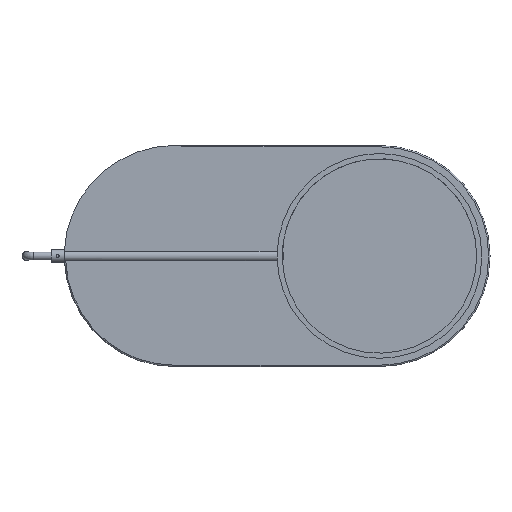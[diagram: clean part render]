
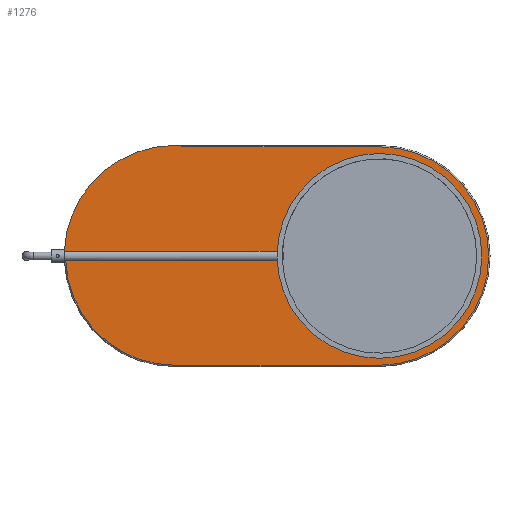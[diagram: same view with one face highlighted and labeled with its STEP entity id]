
A CAD part, top view. The second image highlights one B-rep face of the part: STEP entity #1276.
In plain terms, the highlighted planar face has unit normal (0, 0, 1).
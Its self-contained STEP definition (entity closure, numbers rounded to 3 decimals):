
#401=CARTESIAN_POINT('',(0.0,-168.0,4.0));
#402=VERTEX_POINT('',#401);
#410=CARTESIAN_POINT('',(-314.999,-168.0,4.0));
#411=VERTEX_POINT('',#410);
#412=CARTESIAN_POINT('',(0.0,-168.0,4.0));
#413=DIRECTION('',(-1.0,0.0,0.0));
#414=VECTOR('',#413,314.999);
#415=LINE('',#412,#414);
#416=EDGE_CURVE('',#402,#411,#415,.T.);
#442=CARTESIAN_POINT('',(0.,168.0,4.0));
#443=VERTEX_POINT('',#442);
#451=CARTESIAN_POINT('',(0.0,0.0,4.0));
#452=DIRECTION('',(0.0,0.0,-1.0));
#453=DIRECTION('',(1.0,0.0,0.0));
#454=AXIS2_PLACEMENT_3D('',#451,#452,#453);
#455=CIRCLE('',#454,168.0);
#456=EDGE_CURVE('',#443,#402,#455,.T.);
#468=CARTESIAN_POINT('',(-482.724,-7.215,4.0));
#469=VERTEX_POINT('',#468);
#470=CARTESIAN_POINT('',(-314.872,0.007,4.0));
#471=DIRECTION('',(0.0,0.0,-1.0));
#472=DIRECTION('',(-0.692,-0.722,0.0));
#473=AXIS2_PLACEMENT_3D('',#470,#471,#472);
#474=CIRCLE('',#473,168.007);
#475=EDGE_CURVE('',#411,#469,#474,.T.);
#502=CARTESIAN_POINT('',(-288.78,168.0,4.0));
#503=VERTEX_POINT('',#502);
#533=CARTESIAN_POINT('',(-288.78,168.0,4.0));
#534=DIRECTION('',(1.0,0.0,0.0));
#535=VECTOR('',#534,288.78);
#536=LINE('',#533,#535);
#537=EDGE_CURVE('',#503,#443,#536,.T.);
#1198=CARTESIAN_POINT('',(-151.328,-7.215,4.0));
#1199=VERTEX_POINT('',#1198);
#1200=CARTESIAN_POINT('',(-151.328,-7.215,4.0));
#1201=DIRECTION('',(-1.0,0.0,0.0));
#1202=VECTOR('',#1201,331.395);
#1203=LINE('',#1200,#1202);
#1204=EDGE_CURVE('',#1199,#469,#1203,.T.);
#1206=CARTESIAN_POINT('',(-151.328,7.215,4.0));
#1207=VERTEX_POINT('',#1206);
#1225=CARTESIAN_POINT('',(-484.726,7.215,4.0));
#1226=VERTEX_POINT('',#1225);
#1227=CARTESIAN_POINT('',(-484.726,7.215,4.0));
#1228=DIRECTION('',(1.0,0.0,0.0));
#1229=VECTOR('',#1228,333.398);
#1230=LINE('',#1227,#1229);
#1231=EDGE_CURVE('',#1226,#1207,#1230,.T.);
#1249=CARTESIAN_POINT('',(-157.409,-0.021,4.0));
#1250=DIRECTION('',(0.0,0.0,1.0));
#1251=DIRECTION('',(1.0,0.0,0.0));
#1252=AXIS2_PLACEMENT_3D('',#1249,#1250,#1251);
#1253=PLANE('',#1252);
#1254=CARTESIAN_POINT('',(-314.872,0.007,4.0));
#1255=DIRECTION('',(0.0,0.0,-1.));
#1256=DIRECTION('',(-0.013,-1.,0.0));
#1257=AXIS2_PLACEMENT_3D('',#1254,#1255,#1256);
#1258=CIRCLE('',#1257,170.007);
#1259=EDGE_CURVE('',#1226,#503,#1258,.T.);
#1260=ORIENTED_EDGE('',*,*,#1259,.F.);
#1261=ORIENTED_EDGE('',*,*,#1231,.T.);
#1262=CARTESIAN_POINT('',(0.0,0.0,4.0));
#1263=DIRECTION('',(0.0,0.0,1.0));
#1264=DIRECTION('',(-1.0,0.0,0.0));
#1265=AXIS2_PLACEMENT_3D('',#1262,#1263,#1264);
#1266=CIRCLE('',#1265,151.5);
#1267=EDGE_CURVE('',#1199,#1207,#1266,.T.);
#1268=ORIENTED_EDGE('',*,*,#1267,.F.);
#1269=ORIENTED_EDGE('',*,*,#1204,.T.);
#1270=ORIENTED_EDGE('',*,*,#475,.F.);
#1271=ORIENTED_EDGE('',*,*,#416,.F.);
#1272=ORIENTED_EDGE('',*,*,#456,.F.);
#1273=ORIENTED_EDGE('',*,*,#537,.F.);
#1274=EDGE_LOOP('',(#1260,#1261,#1268,#1269,#1270,#1271,#1272,#1273));
#1275=FACE_OUTER_BOUND('',#1274,.T.);
#1276=ADVANCED_FACE('',(#1275),#1253,.T.);
